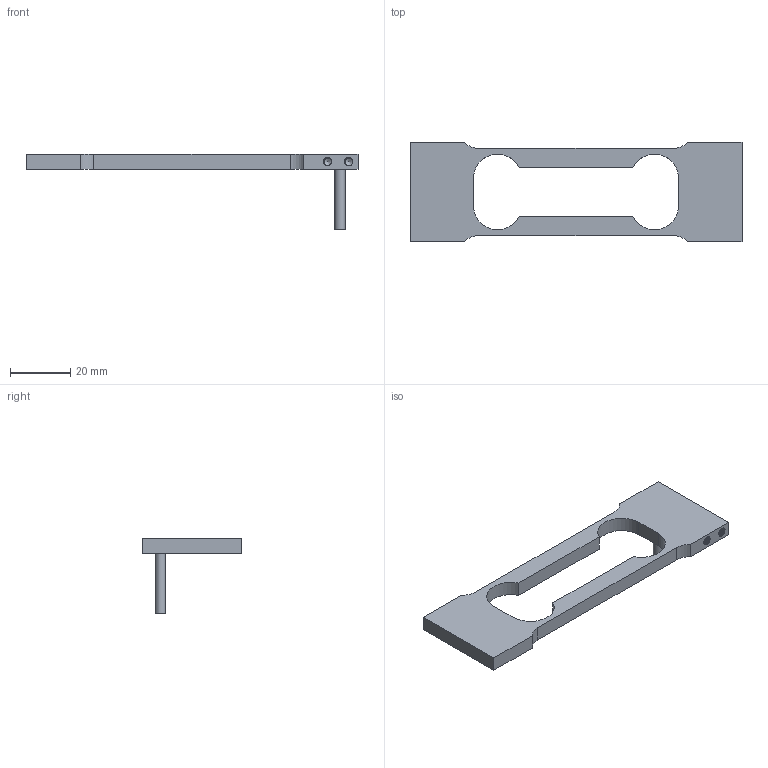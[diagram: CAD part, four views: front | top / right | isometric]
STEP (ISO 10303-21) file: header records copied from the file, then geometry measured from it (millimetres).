
FILE_DESCRIPTION(/* description */ (''),/* implementation_level */ '2;1');
FILE_NAME(/* name */ 'C:/Users/fardi/Dropbox/Anyload/Load Cell Models/3D Drawing/108/108PA/108PA-0.2kg v3.step',/* time_stamp */ '2020-01-28T10:54:27-08:00',/* author */ (''),/* organization */ (''),/* preprocessor_version */ 'ST-DEVELOPER v18',/* originating_system */ 'Autodesk Translation Framework v8.12.0.6',/* authorisation */ '');
FILE_SCHEMA (('AUTOMOTIVE_DESIGN { 1 0 10303 214 3 1 1 }'));
Length unit declared in the file: millimetre
Products named in the file (1): 108PA-0.2kg
Bounding box: 110 x 33 x 25 mm (x, y, z)
Volume: 10355.4 mm3; surface area: 7492.3 mm2
Topology: 1 solids, 1 shells, 288 faces, 751 edges, 466 vertices
Faces by surface type: cylinder 257, plane 19, bspline 8, cone 4
Full cylindrical faces by diameter (mm): 2.529 x120, 3.086 x112, 3.5 x1
Entity records: 19926 total; most frequent: CARTESIAN_POINT 13722, ORIENTED_EDGE 1494, DIRECTION 935, EDGE_CURVE 747, VERTEX_POINT 466, B_SPLINE_CURVE_WITH_KNOTS 416, AXIS2_PLACEMENT_3D 323, EDGE_LOOP 295
